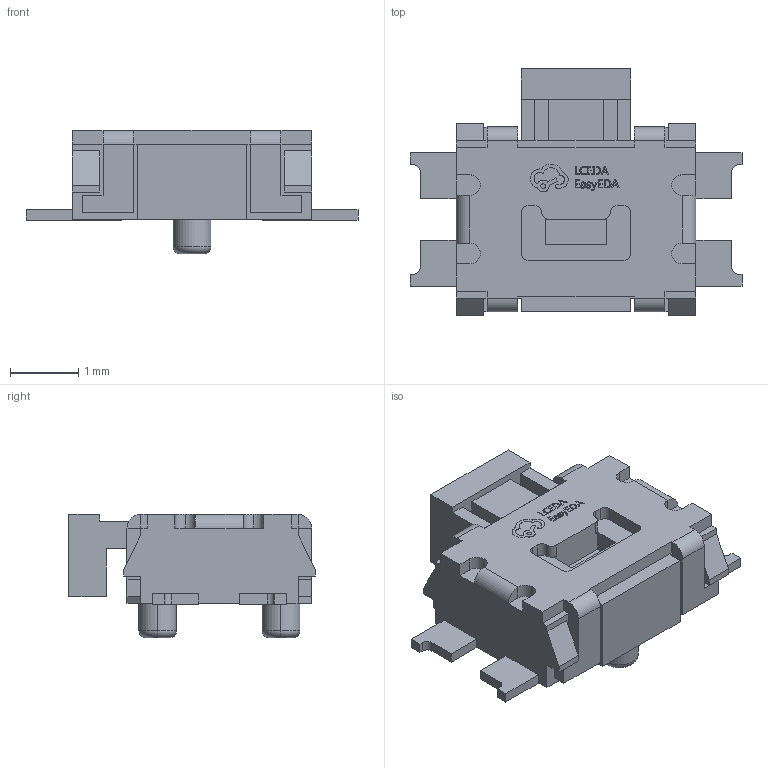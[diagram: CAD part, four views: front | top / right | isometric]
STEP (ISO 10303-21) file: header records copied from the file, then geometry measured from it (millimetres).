
FILE_DESCRIPTION (( 'STEP AP214' ), '1' );
FILE_NAME ('KEY-SMD_TS-1186F-C-A.step', '2022-07-02T15:30:20', ( '' ), ( '' ), 'SwSTEP 2.0', 'SolidWorks 2020', '' );
FILE_SCHEMA (( 'AUTOMOTIVE_DESIGN' ));
Length unit declared in the file: millimetre
Products named in the file (1): KEY-SMD_TS-1186F-C-A
Bounding box: 4.85 x 3.6 x 1.8 mm (x, y, z)
Volume: 12.9 mm3; surface area: 52.9 mm2
Topology: 1 solids, 1 shells, 488 faces, 1321 edges, 864 vertices
Faces by surface type: plane 340, bspline 112, cylinder 32, torus 4
Entity records: 21709 total; most frequent: CARTESIAN_POINT 4778, ORIENTED_EDGE 2642, DIRECTION 1919, EDGE_CURVE 1321, LINE 1021, VECTOR 1021, VERTEX_POINT 864, EDGE_LOOP 517
